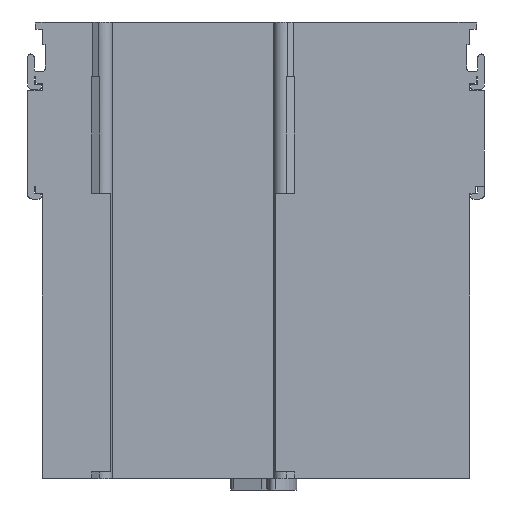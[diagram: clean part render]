
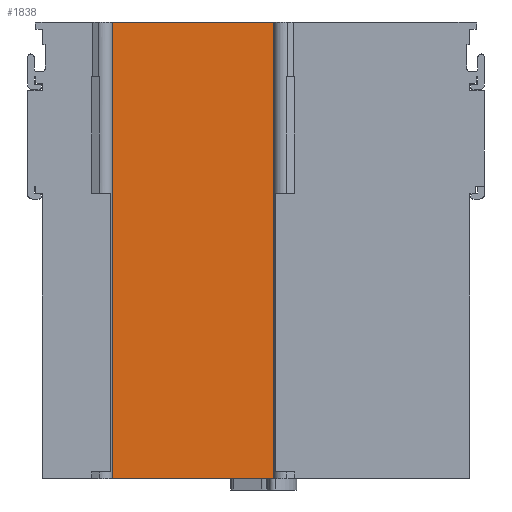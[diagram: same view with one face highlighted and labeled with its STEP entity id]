
A CAD part, front view. The second image highlights one B-rep face of the part: STEP entity #1838.
In plain terms, the highlighted planar face has unit normal (0, -1, 0).
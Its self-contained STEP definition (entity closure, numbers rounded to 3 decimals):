
#1838 = ADVANCED_FACE( '', ( #3776 ), #3777, .F. );
#3776 = FACE_OUTER_BOUND( '', #5769, .T. );
#3777 = PLANE( '', #5770 );
#5769 = EDGE_LOOP( '', ( #11469, #11470, #11471, #11472 ) );
#5770 = AXIS2_PLACEMENT_3D( '', #11473, #11474, #11475 );
#11469 = ORIENTED_EDGE( '', *, *, #12496, .T. );
#11470 = ORIENTED_EDGE( '', *, *, #14348, .F. );
#11471 = ORIENTED_EDGE( '', *, *, #14198, .F. );
#11472 = ORIENTED_EDGE( '', *, *, #14081, .T. );
#11473 = CARTESIAN_POINT( '', ( -17.7, 0., 22.8 ) );
#11474 = DIRECTION( '', ( 0., 1., 0. ) );
#11475 = DIRECTION( '', ( 0., 0., 1. ) );
#12496 = EDGE_CURVE( '', #15268, #15266, #15269, .T. );
#14081 = EDGE_CURVE( '', #17605, #15268, #17606, .T. );
#14198 = EDGE_CURVE( '', #17605, #17736, #17737, .T. );
#14348 = EDGE_CURVE( '', #17736, #15266, #17900, .T. );
#15266 = VERTEX_POINT( '', #19198 );
#15268 = VERTEX_POINT( '', #19201 );
#15269 = LINE( '', #19202, #19203 );
#17605 = VERTEX_POINT( '', #22578 );
#17606 = LINE( '', #22579, #22580 );
#17736 = VERTEX_POINT( '', #22768 );
#17737 = LINE( '', #22769, #22770 );
#17900 = LINE( '', #22997, #22998 );
#19198 = CARTESIAN_POINT( '', ( 17.7, 0., 2.5 ) );
#19201 = CARTESIAN_POINT( '', ( -17.7, 0., 2.5 ) );
#19202 = CARTESIAN_POINT( '', ( -17.7, 0., 2.5 ) );
#19203 = VECTOR( '', #23598, 1000. );
#22578 = CARTESIAN_POINT( '', ( -17.7, 0., 102.5 ) );
#22579 = CARTESIAN_POINT( '', ( -17.7, 0., 22.8 ) );
#22580 = VECTOR( '', #25356, 1000. );
#22768 = CARTESIAN_POINT( '', ( 17.7, 0., 102.5 ) );
#22769 = CARTESIAN_POINT( '', ( -17.7, 0., 102.5 ) );
#22770 = VECTOR( '', #25457, 1000. );
#22997 = CARTESIAN_POINT( '', ( 17.7, 0., 22.8 ) );
#22998 = VECTOR( '', #25546, 1000. );
#23598 = DIRECTION( '', ( 1., 0., 0. ) );
#25356 = DIRECTION( '', ( 0., 0., -1. ) );
#25457 = DIRECTION( '', ( 1., 0., 0. ) );
#25546 = DIRECTION( '', ( 0., 0., -1. ) );
